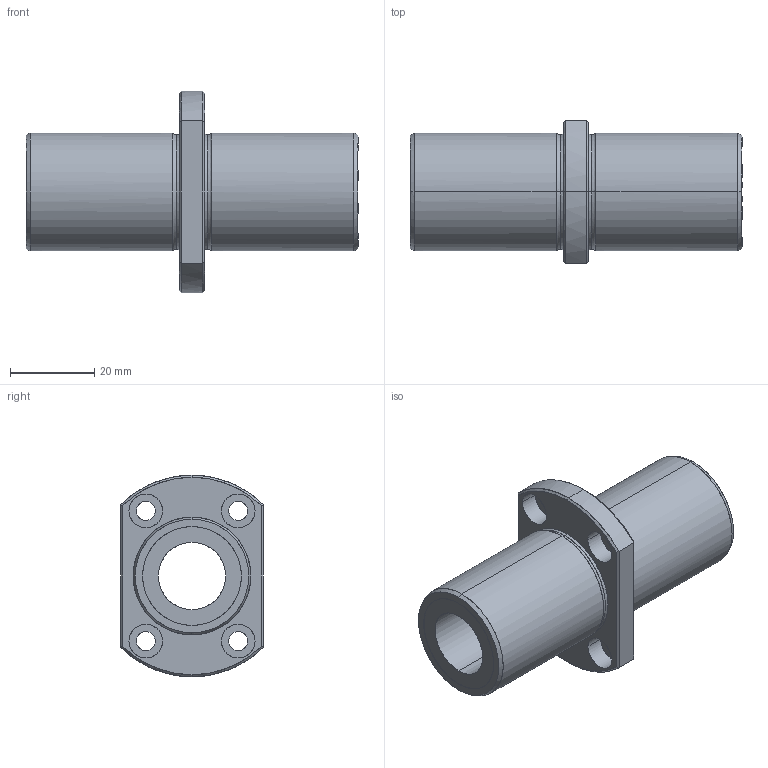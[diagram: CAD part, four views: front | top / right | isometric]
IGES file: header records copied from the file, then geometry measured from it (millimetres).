
Global section: file name: No Iges File Name specified; native system: AutoDesk Inventor R10; preprocessor: AutoDesk Inventor Iges Exporter R10; author: No Author specified; organization: No Organization specified; date: 20101216.154148; units: millimetre
Bounding box: 79 x 34 x 48 mm (x, y, z)
Surface area: 14124.7 mm2 (no closed solid volume)
Topology: 0 solids, 0 shells, 66 faces, 416 edges, 416 vertices
Faces by surface type: bspline 66
